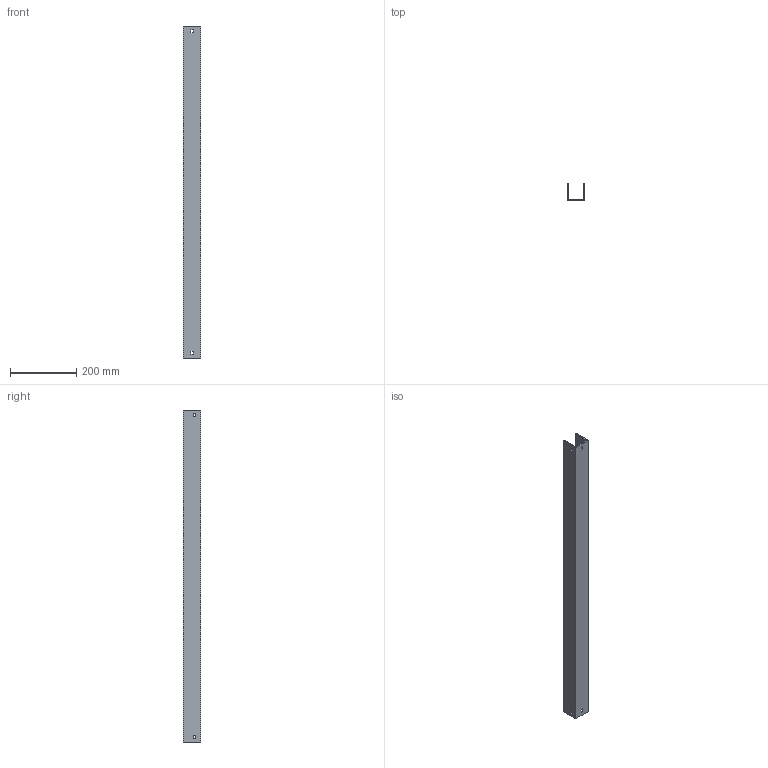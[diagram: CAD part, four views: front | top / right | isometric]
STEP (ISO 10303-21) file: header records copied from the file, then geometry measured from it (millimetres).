
FILE_DESCRIPTION (( 'STEP AP214' ), '1' );
FILE_NAME ('03F1B050.step', '2025-02-21T13:22:51', ( '' ), ( '' ), 'SwSTEP 2.0', 'SolidWorks 2023', '' );
FILE_SCHEMA (( 'AUTOMOTIVE_DESIGN' ));
Length unit declared in the file: millimetre
Products named in the file (1): 03F1B050
Bounding box: 54 x 52 x 1000 mm (x, y, z)
Volume: 527110.5 mm3; surface area: 309956 mm2
Topology: 1 solids, 1 shells, 34 faces, 96 edges, 64 vertices
Faces by surface type: plane 34
Entity records: 1127 total; most frequent: CARTESIAN_POINT 195, ORIENTED_EDGE 192, DIRECTION 166, VECTOR 96, EDGE_CURVE 96, LINE 96, VERTEX_POINT 64, EDGE_LOOP 46
